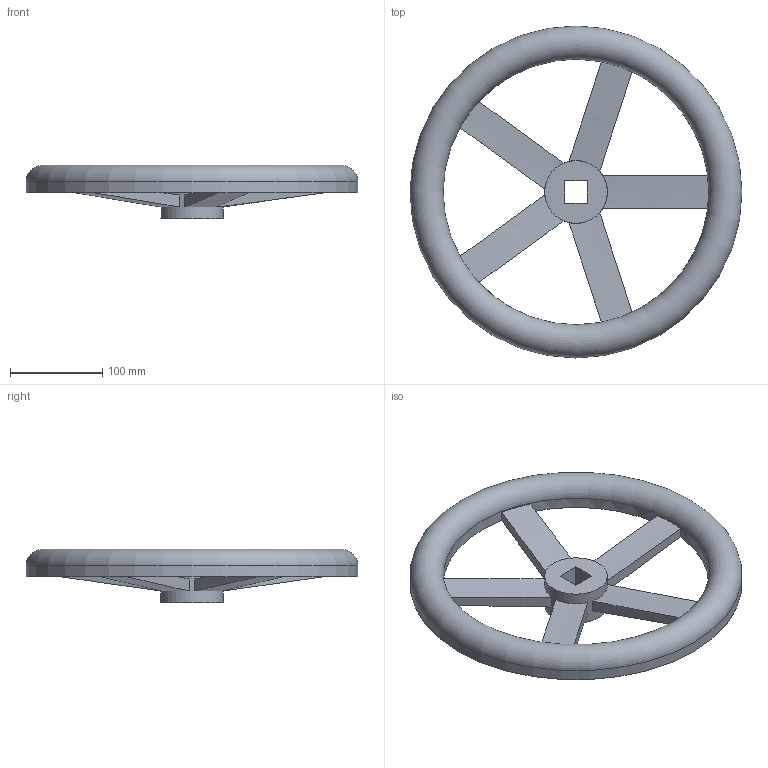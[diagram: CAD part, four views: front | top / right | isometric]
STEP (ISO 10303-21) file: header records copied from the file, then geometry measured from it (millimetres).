
FILE_DESCRIPTION( ( 'STEP AP203' ), '1' );
FILE_NAME( 'p:/temp/worker_213/temp/exporttempdir_1280_167_d7dVN/format_0/5007614 7800 DN200 (400).stp', '2021-01-13T08:48:17', ( 'License CC BY-ND 4.0' ), ( 'CADENAS' ), ' ', 'PARTsolutions', ' ' );
FILE_SCHEMA( ( 'CONFIG_CONTROL_DESIGN' ) );
Length unit declared in the file: millimetre
Products named in the file (1): _5007614 7800 DN200 (400)
Bounding box: 360 x 360 x 58 mm (x, y, z)
Volume: 621304.8 mm3; surface area: 226313.4 mm2
Topology: 1 solids, 1 shells, 35 faces, 97 edges, 60 vertices
Faces by surface type: plane 18, cone 10, cylinder 5, torus 2
Full cylindrical faces by diameter (mm): 68 x1, 288 x1, 295.2 x1, 352.8 x1, 360 x1
Entity records: 1254 total; most frequent: CARTESIAN_POINT 359, DIRECTION 172, ORIENTED_EDGE 172, EDGE_CURVE 86, AXIS2_PLACEMENT_3D 70, VERTEX_POINT 57, EDGE_LOOP 51, FACE_OUTER_BOUND 42
